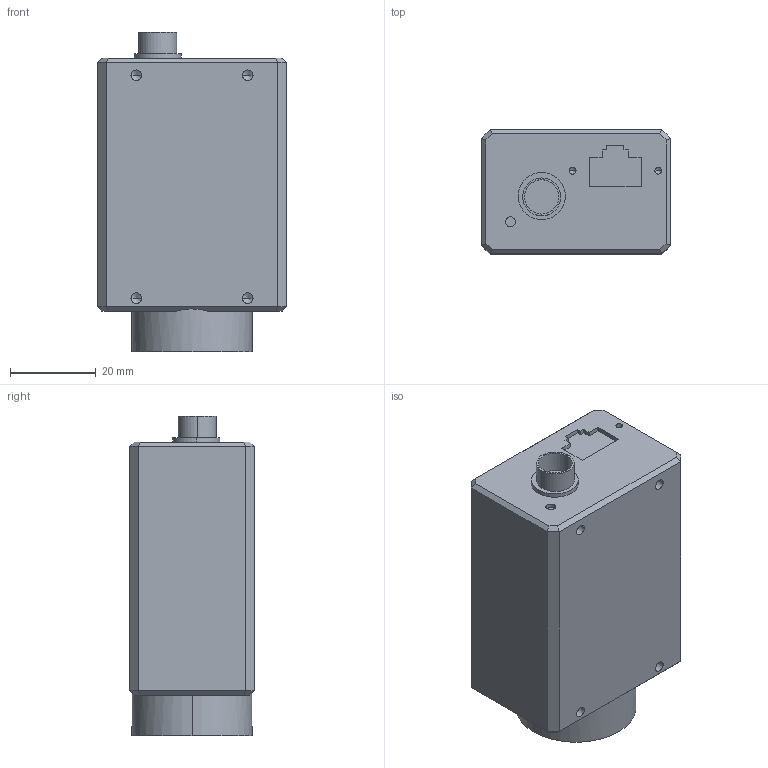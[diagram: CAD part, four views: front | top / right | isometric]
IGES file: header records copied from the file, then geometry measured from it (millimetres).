
Start section:  PTC IGES file: MV-CE200-10GMGC.igs
Global section: file name: MV-CE200-10GMGC.igs; native system: Creo Parametric by PTC Inc.; preprocessor: 2017260; author: wangyijun6; organization: Unknown; date: 20200311.110917; units: millimetre
Bounding box: 44 x 29 x 74.46 mm (x, y, z)
Volume: 76283.2 mm3; surface area: 12850.6 mm2
Topology: 1 solids, 1 shells, 90 faces, 214 edges, 124 vertices
Faces by surface type: bspline 46, revolution 44
